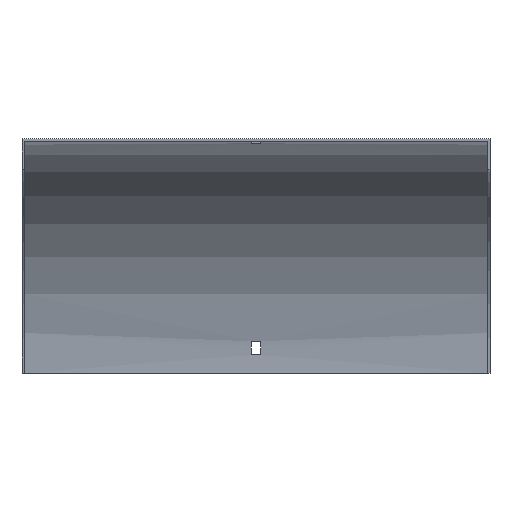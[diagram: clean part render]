
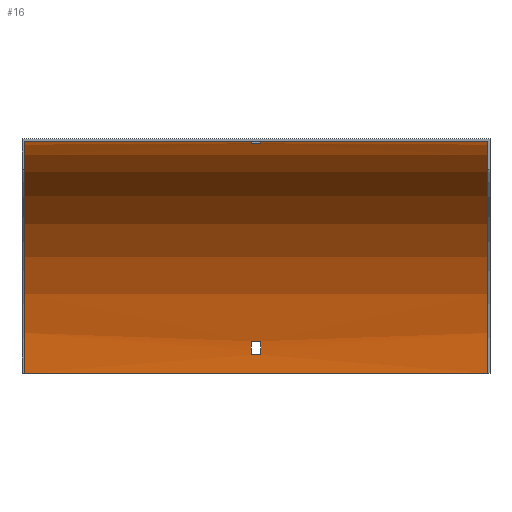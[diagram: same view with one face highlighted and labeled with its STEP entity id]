
A CAD part, top view. The second image highlights one B-rep face of the part: STEP entity #16.
In plain terms, the highlighted cylindrical face has radius 152 mm (diameter 304 mm), a partial arc.
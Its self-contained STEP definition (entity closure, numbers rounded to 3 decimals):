
#4 = DIRECTION ( 'NONE',  ( -1., 0., 0. ) ) ;
#16 = ADVANCED_FACE ( 'NONE', ( #438, #443, #585 ), #158, .F. ) ;
#22 = DIRECTION ( 'NONE',  ( 1., 0., 0. ) ) ;
#24 = ORIENTED_EDGE ( 'NONE', *, *, #423, .F. ) ;
#25 = VERTEX_POINT ( 'NONE', #288 ) ;
#30 = ORIENTED_EDGE ( 'NONE', *, *, #328, .F. ) ;
#35 = LINE ( 'NONE', #452, #542 ) ;
#40 = CARTESIAN_POINT ( 'NONE',  ( 153.5, -2.958, -21. ) ) ;
#41 = DIRECTION ( 'NONE',  ( -1., 0., 0. ) ) ;
#45 = DIRECTION ( 'NONE',  ( 1., 0., 0. ) ) ;
#50 = CARTESIAN_POINT ( 'NONE',  ( -152., -153.5, 0. ) ) ;
#61 = EDGE_CURVE ( 'NONE', #73, #271, #327, .T. ) ;
#69 = CARTESIAN_POINT ( 'NONE',  ( 153.5, -153.5, 0. ) ) ;
#73 = VERTEX_POINT ( 'NONE', #162 ) ;
#78 = VERTEX_POINT ( 'NONE', #384 ) ;
#81 = EDGE_CURVE ( 'NONE', #136, #78, #249, .T. ) ;
#84 = EDGE_CURVE ( 'NONE', #271, #472, #499, .T. ) ;
#85 = DIRECTION ( 'NONE',  ( 1., 0., 0. ) ) ;
#95 = ORIENTED_EDGE ( 'NONE', *, *, #81, .F. ) ;
#98 = VERTEX_POINT ( 'NONE', #538 ) ;
#110 = EDGE_CURVE ( 'NONE', #25, #98, #526, .T. ) ;
#113 = VERTEX_POINT ( 'NONE', #117 ) ;
#117 = CARTESIAN_POINT ( 'NONE',  ( -3.25, -132.5, -150.542 ) ) ;
#118 = DIRECTION ( 'NONE',  ( 0., 0., 1. ) ) ;
#119 = CARTESIAN_POINT ( 'NONE',  ( 153.5, -1.974, -12. ) ) ;
#121 = EDGE_CURVE ( 'NONE', #113, #25, #35, .T. ) ;
#131 = CARTESIAN_POINT ( 'NONE',  ( -3.25, -153.5, 0. ) ) ;
#136 = VERTEX_POINT ( 'NONE', #257 ) ;
#137 = CARTESIAN_POINT ( 'NONE',  ( 3.25, -1.974, -12. ) ) ;
#144 = ORIENTED_EDGE ( 'NONE', *, *, #310, .T. ) ;
#158 = CYLINDRICAL_SURFACE ( 'NONE', #606, 152. ) ;
#162 = CARTESIAN_POINT ( 'NONE',  ( 152., -153.5, -152. ) ) ;
#164 = EDGE_LOOP ( 'NONE', ( #317, #203, #466, #189 ) ) ;
#173 = CARTESIAN_POINT ( 'NONE',  ( -3.25, -1.974, -12. ) ) ;
#181 = AXIS2_PLACEMENT_3D ( 'NONE', #184, #332, #579 ) ;
#184 = CARTESIAN_POINT ( 'NONE',  ( -3.25, -153.5, 0. ) ) ;
#185 = VERTEX_POINT ( 'NONE', #173 ) ;
#189 = ORIENTED_EDGE ( 'NONE', *, *, #84, .T. ) ;
#203 = ORIENTED_EDGE ( 'NONE', *, *, #331, .F. ) ;
#234 = VERTEX_POINT ( 'NONE', #361 ) ;
#239 = CARTESIAN_POINT ( 'NONE',  ( 3.25, -153.5, 0. ) ) ;
#244 = DIRECTION ( 'NONE',  ( -1., 0., 0. ) ) ;
#249 = LINE ( 'NONE', #40, #508 ) ;
#257 = CARTESIAN_POINT ( 'NONE',  ( -3.25, -2.958, -21. ) ) ;
#263 = EDGE_CURVE ( 'NONE', #98, #234, #319, .T. ) ;
#271 = VERTEX_POINT ( 'NONE', #285 ) ;
#279 = ORIENTED_EDGE ( 'NONE', *, *, #509, .F. ) ;
#285 = CARTESIAN_POINT ( 'NONE',  ( 152., -1.5, 0. ) ) ;
#286 = ORIENTED_EDGE ( 'NONE', *, *, #263, .T. ) ;
#287 = CARTESIAN_POINT ( 'NONE',  ( 152., -153.5, -152. ) ) ;
#288 = CARTESIAN_POINT ( 'NONE',  ( 3.25, -132.5, -150.542 ) ) ;
#289 = CARTESIAN_POINT ( 'NONE',  ( -152., -153.5, -152. ) ) ;
#295 = VERTEX_POINT ( 'NONE', #137 ) ;
#310 = EDGE_CURVE ( 'NONE', #234, #113, #450, .T. ) ;
#317 = ORIENTED_EDGE ( 'NONE', *, *, #550, .F. ) ;
#319 = LINE ( 'NONE', #510, #569 ) ;
#324 = EDGE_LOOP ( 'NONE', ( #286, #144, #495, #506 ) ) ;
#327 = CIRCLE ( 'NONE', #345, 152. ) ;
#328 = EDGE_CURVE ( 'NONE', #78, #295, #467, .T. ) ;
#329 = DIRECTION ( 'NONE',  ( 0., 0., -1. ) ) ;
#331 = EDGE_CURVE ( 'NONE', #73, #465, #524, .T. ) ;
#332 = DIRECTION ( 'NONE',  ( 1., 0., 0. ) ) ;
#343 = DIRECTION ( 'NONE',  ( -1., 0., 0. ) ) ;
#345 = AXIS2_PLACEMENT_3D ( 'NONE', #429, #22, #381 ) ;
#356 = CIRCLE ( 'NONE', #393, 152. ) ;
#360 = AXIS2_PLACEMENT_3D ( 'NONE', #239, #376, #329 ) ;
#361 = CARTESIAN_POINT ( 'NONE',  ( -3.25, -141.5, -151.526 ) ) ;
#375 = AXIS2_PLACEMENT_3D ( 'NONE', #394, #484, #498 ) ;
#376 = DIRECTION ( 'NONE',  ( 1., 0., 0. ) ) ;
#379 = DIRECTION ( 'NONE',  ( -1., 0., 0. ) ) ;
#380 = AXIS2_PLACEMENT_3D ( 'NONE', #50, #45, #514 ) ;
#381 = DIRECTION ( 'NONE',  ( 0., 0., 1. ) ) ;
#384 = CARTESIAN_POINT ( 'NONE',  ( 3.25, -2.958, -21. ) ) ;
#393 = AXIS2_PLACEMENT_3D ( 'NONE', #131, #4, #414 ) ;
#394 = CARTESIAN_POINT ( 'NONE',  ( 3.25, -153.5, 0. ) ) ;
#399 = DIRECTION ( 'NONE',  ( 1., 0., 0. ) ) ;
#401 = CARTESIAN_POINT ( 'NONE',  ( -152., -1.5, 0. ) ) ;
#414 = DIRECTION ( 'NONE',  ( 0., 0., 1. ) ) ;
#423 = EDGE_CURVE ( 'NONE', #295, #185, #444, .T. ) ;
#429 = CARTESIAN_POINT ( 'NONE',  ( 152., -153.5, 0. ) ) ;
#438 = FACE_BOUND ( 'NONE', #522, .T. ) ;
#443 = FACE_OUTER_BOUND ( 'NONE', #164, .T. ) ;
#444 = LINE ( 'NONE', #119, #546 ) ;
#450 = CIRCLE ( 'NONE', #181, 152. ) ;
#452 = CARTESIAN_POINT ( 'NONE',  ( 153.5, -132.5, -150.542 ) ) ;
#455 = VECTOR ( 'NONE', #379, 1000. ) ;
#457 = VECTOR ( 'NONE', #583, 1000. ) ;
#465 = VERTEX_POINT ( 'NONE', #289 ) ;
#466 = ORIENTED_EDGE ( 'NONE', *, *, #61, .T. ) ;
#467 = CIRCLE ( 'NONE', #360, 152. ) ;
#472 = VERTEX_POINT ( 'NONE', #401 ) ;
#484 = DIRECTION ( 'NONE',  ( -1., 0., 0. ) ) ;
#495 = ORIENTED_EDGE ( 'NONE', *, *, #121, .T. ) ;
#498 = DIRECTION ( 'NONE',  ( 0., 0., 1. ) ) ;
#499 = LINE ( 'NONE', #528, #457 ) ;
#506 = ORIENTED_EDGE ( 'NONE', *, *, #110, .T. ) ;
#508 = VECTOR ( 'NONE', #399, 1000. ) ;
#509 = EDGE_CURVE ( 'NONE', #185, #136, #356, .T. ) ;
#510 = CARTESIAN_POINT ( 'NONE',  ( 153.5, -141.5, -151.526 ) ) ;
#514 = DIRECTION ( 'NONE',  ( 0., 0., 1. ) ) ;
#522 = EDGE_LOOP ( 'NONE', ( #279, #24, #30, #95 ) ) ;
#524 = LINE ( 'NONE', #287, #455 ) ;
#526 = CIRCLE ( 'NONE', #375, 152. ) ;
#528 = CARTESIAN_POINT ( 'NONE',  ( 152., -1.5, 0. ) ) ;
#538 = CARTESIAN_POINT ( 'NONE',  ( 3.25, -141.5, -151.526 ) ) ;
#542 = VECTOR ( 'NONE', #85, 1000. ) ;
#546 = VECTOR ( 'NONE', #244, 1000. ) ;
#550 = EDGE_CURVE ( 'NONE', #465, #472, #577, .T. ) ;
#569 = VECTOR ( 'NONE', #41, 1000. ) ;
#577 = CIRCLE ( 'NONE', #380, 152. ) ;
#579 = DIRECTION ( 'NONE',  ( 0., 0., -1. ) ) ;
#583 = DIRECTION ( 'NONE',  ( -1., 0., 0. ) ) ;
#585 = FACE_BOUND ( 'NONE', #324, .T. ) ;
#606 = AXIS2_PLACEMENT_3D ( 'NONE', #69, #343, #118 ) ;
